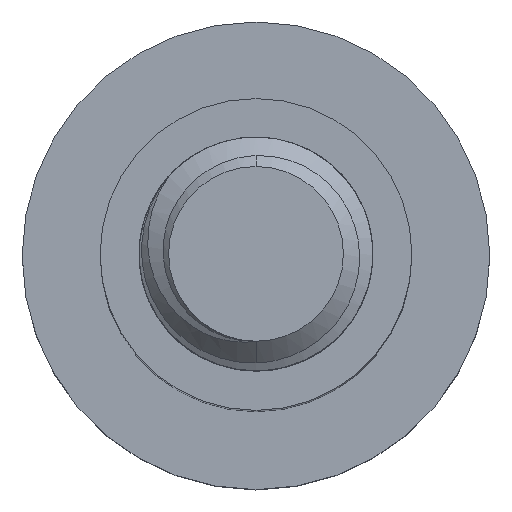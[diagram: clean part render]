
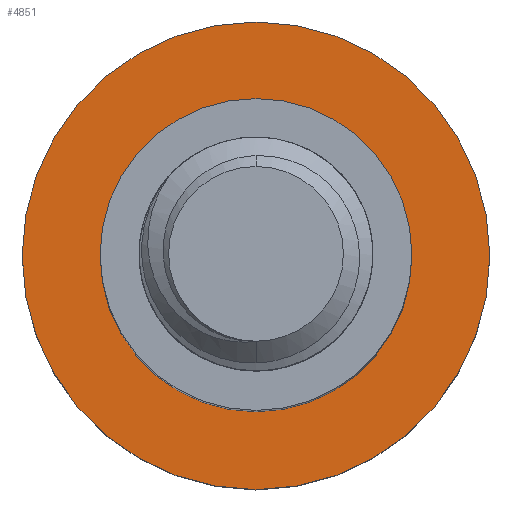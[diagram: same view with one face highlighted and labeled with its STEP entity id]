
A CAD part, top view. The second image highlights one B-rep face of the part: STEP entity #4851.
In plain terms, the highlighted planar face has unit normal (0, 0, 1).
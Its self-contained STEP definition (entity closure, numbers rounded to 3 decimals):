
#4 = CIRCLE ( 'NONE', #2179, 8. ) ;
#427 = CARTESIAN_POINT ( 'NONE',  ( 0., 0., -40. ) ) ;
#429 = AXIS2_PLACEMENT_3D ( 'NONE', #731, #3823, #1074 ) ;
#731 = CARTESIAN_POINT ( 'NONE',  ( 0., 0., -40. ) ) ;
#894 = EDGE_CURVE ( 'NONE', #4605, #5152, #1507, .T. ) ;
#929 = ORIENTED_EDGE ( 'NONE', *, *, #1060, .T. ) ;
#945 = CIRCLE ( 'NONE', #429, 12. ) ;
#986 = ORIENTED_EDGE ( 'NONE', *, *, #894, .F. ) ;
#1006 = EDGE_LOOP ( 'NONE', ( #986, #2414 ) ) ;
#1060 = EDGE_CURVE ( 'NONE', #5035, #1318, #4, .T. ) ;
#1074 = DIRECTION ( 'NONE',  ( -1., 0., 0. ) ) ;
#1225 = CARTESIAN_POINT ( 'NONE',  ( 12., 0., -40. ) ) ;
#1266 = CARTESIAN_POINT ( 'NONE',  ( 0., 0., -40. ) ) ;
#1318 = VERTEX_POINT ( 'NONE', #1550 ) ;
#1507 = CIRCLE ( 'NONE', #4261, 12. ) ;
#1550 = CARTESIAN_POINT ( 'NONE',  ( -8., 0., -40. ) ) ;
#1656 = FACE_BOUND ( 'NONE', #2510, .T. ) ;
#1799 = CARTESIAN_POINT ( 'NONE',  ( -12., 0., -40. ) ) ;
#1909 = DIRECTION ( 'NONE',  ( 0., 0., -1. ) ) ;
#2179 = AXIS2_PLACEMENT_3D ( 'NONE', #427, #3572, #3275 ) ;
#2414 = ORIENTED_EDGE ( 'NONE', *, *, #3138, .F. ) ;
#2494 = ORIENTED_EDGE ( 'NONE', *, *, #3658, .T. ) ;
#2510 = EDGE_LOOP ( 'NONE', ( #2494, #929 ) ) ;
#3138 = EDGE_CURVE ( 'NONE', #5152, #4605, #945, .T. ) ;
#3218 = CARTESIAN_POINT ( 'NONE',  ( 0., 0., -40. ) ) ;
#3275 = DIRECTION ( 'NONE',  ( -1., 0., 0. ) ) ;
#3300 = DIRECTION ( 'NONE',  ( 0., 0., -1. ) ) ;
#3526 = PLANE ( 'NONE',  #4536 ) ;
#3572 = DIRECTION ( 'NONE',  ( 0., 0., -1. ) ) ;
#3658 = EDGE_CURVE ( 'NONE', #1318, #5035, #3844, .T. ) ;
#3699 = CARTESIAN_POINT ( 'NONE',  ( 8., 0., -40. ) ) ;
#3823 = DIRECTION ( 'NONE',  ( 0., 0., -1. ) ) ;
#3844 = CIRCLE ( 'NONE', #4955, 8. ) ;
#3920 = DIRECTION ( 'NONE',  ( -1., 0., 0. ) ) ;
#4135 = FACE_OUTER_BOUND ( 'NONE', #1006, .T. ) ;
#4261 = AXIS2_PLACEMENT_3D ( 'NONE', #4369, #1909, #4268 ) ;
#4268 = DIRECTION ( 'NONE',  ( -1., 0., 0. ) ) ;
#4369 = CARTESIAN_POINT ( 'NONE',  ( 0., 0., -40. ) ) ;
#4453 = DIRECTION ( 'NONE',  ( -1., 0., 0. ) ) ;
#4536 = AXIS2_PLACEMENT_3D ( 'NONE', #1266, #3300, #4453 ) ;
#4605 = VERTEX_POINT ( 'NONE', #1225 ) ;
#4718 = DIRECTION ( 'NONE',  ( 0., 0., -1. ) ) ;
#4851 = ADVANCED_FACE ( 'NONE', ( #1656, #4135 ), #3526, .F. ) ;
#4955 = AXIS2_PLACEMENT_3D ( 'NONE', #3218, #4718, #3920 ) ;
#5035 = VERTEX_POINT ( 'NONE', #3699 ) ;
#5152 = VERTEX_POINT ( 'NONE', #1799 ) ;
